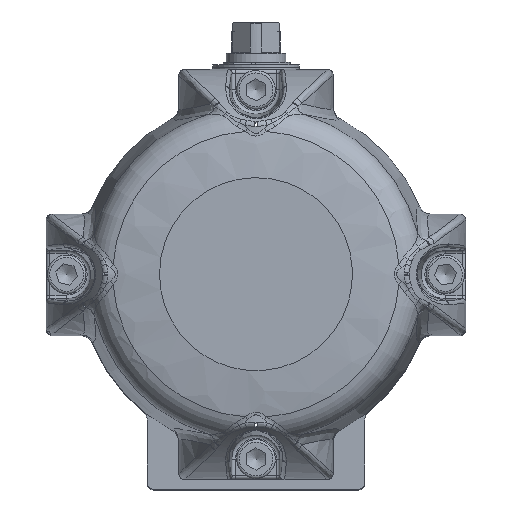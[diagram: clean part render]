
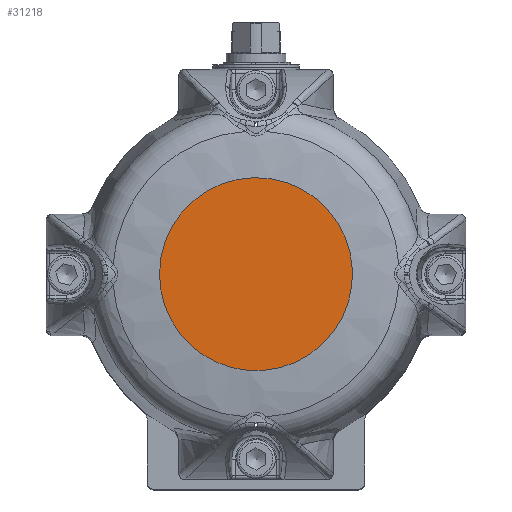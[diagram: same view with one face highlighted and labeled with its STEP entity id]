
A CAD part, top view. The second image highlights one B-rep face of the part: STEP entity #31218.
In plain terms, the highlighted planar face has unit normal (0, 0, 1).
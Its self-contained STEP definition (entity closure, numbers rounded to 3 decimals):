
#27662=CARTESIAN_POINT('',(-40.,0.,173.));
#27663=VERTEX_POINT('',#27662);
#27664=CARTESIAN_POINT('',(0.,0.,173.));
#27665=DIRECTION('',(0.0,0.0,-1.0));
#27666=DIRECTION('',(-1.0,0.0,0.0));
#27667=AXIS2_PLACEMENT_3D('',#27664,#27665,#27666);
#27668=CIRCLE('',#27667,40.0);
#27669=EDGE_CURVE('',#27663,#27663,#27668,.T.);
#31210=CARTESIAN_POINT('',(-20.,0.,173.));
#31211=DIRECTION('',(0.0,0.0,1.0));
#31212=DIRECTION('',(0.0,-1.0,0.0));
#31213=AXIS2_PLACEMENT_3D('',#31210,#31211,#31212);
#31214=PLANE('',#31213);
#31215=ORIENTED_EDGE('',*,*,#27669,.F.);
#31216=EDGE_LOOP('',(#31215));
#31217=FACE_OUTER_BOUND('',#31216,.T.);
#31218=ADVANCED_FACE('',(#31217),#31214,.T.);
